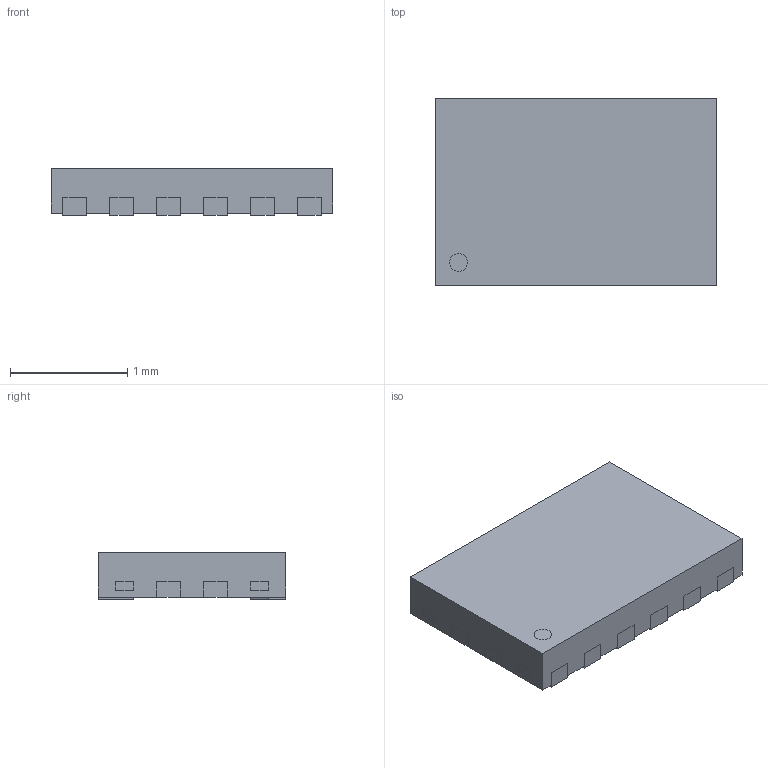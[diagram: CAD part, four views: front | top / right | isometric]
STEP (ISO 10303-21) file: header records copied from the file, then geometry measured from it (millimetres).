
FILE_DESCRIPTION (( 'STEP AP214' ), '1' );
FILE_NAME ('P-XQFN16-0302-0.40-001.STEP', '2023-11-16T00:49:13', ( '' ), ( '' ), 'SwSTEP 2.0', 'SolidWorks 2015', '' );
FILE_SCHEMA (( 'AUTOMOTIVE_DESIGN' ));
Length unit declared in the file: millimetre
Products named in the file (1): P-XQFN16-0302-0.40-001
Bounding box: 2.4 x 1.6 x 0.4 mm (x, y, z)
Volume: 1.5 mm3; surface area: 16.4 mm2
Topology: 21 solids, 21 shells, 213 faces, 500 edges, 334 vertices
Faces by surface type: plane 213
Entity records: 6318 total; most frequent: CARTESIAN_POINT 1048, ORIENTED_EDGE 1000, DIRECTION 930, EDGE_CURVE 500, VECTOR 498, LINE 498, VERTEX_POINT 334, EDGE_LOOP 218
